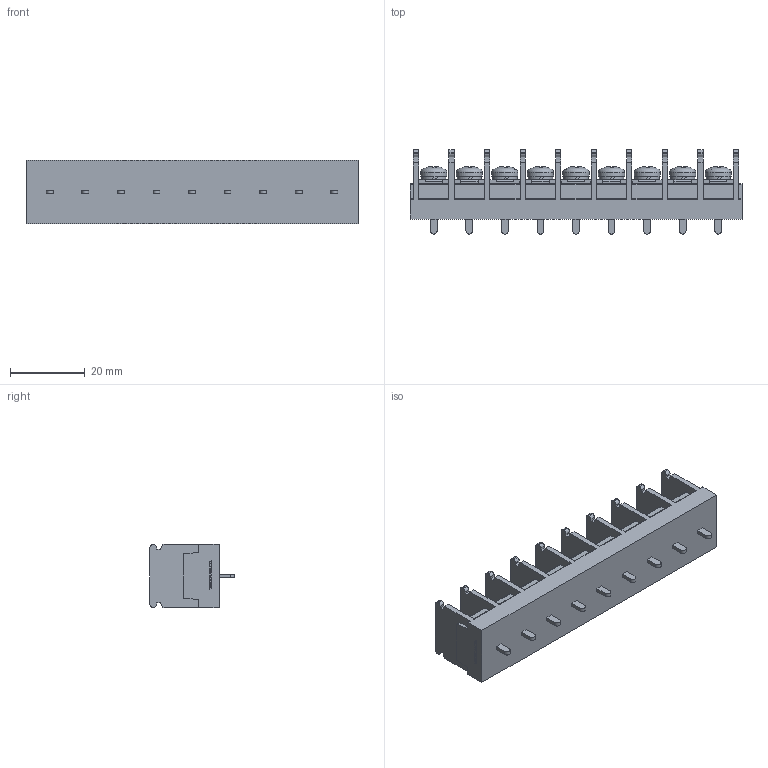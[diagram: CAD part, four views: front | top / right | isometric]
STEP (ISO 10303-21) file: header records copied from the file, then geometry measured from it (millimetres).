
FILE_DESCRIPTION(/* description */ ('Alibre Inc.'),/* implementation_level */ '2;1');
FILE_NAME(/* name */ 'export-6143857B-4F37-4DF2-8812-27868432778D',/* time_stamp */ '2020-11-04T18:16:15+09:00',/* author */ (''),/* organization */ (''),/* preprocessor_version */ 'ST-DEVELOPER v17',/* originating_system */ 'Alibre',/* authorisation */ '');
FILE_SCHEMA (('CONFIG_CONTROL_DESIGN'));
Length unit declared in the file: millimetre
Bounding box: 88.7 x 22.5 x 17 mm (x, y, z)
Volume: 16327.5 mm3; surface area: 10718 mm2
Topology: 1 solids, 26 shells, 1145 faces, 3111 edges, 2065 vertices
Faces by surface type: plane 822, cylinder 147, bspline 104, cone 45, torus 18, sphere 9
Full cylindrical faces by diameter (mm): 4 x18, 6.5 x9, 7 x9
Entity records: 34587 total; most frequent: CARTESIAN_POINT 7345, ORIENTED_EDGE 6042, DIRECTION 4518, EDGE_CURVE 3021, VECTOR 2114, LINE 2114, VERTEX_POINT 2029, AXIS2_PLACEMENT_3D 1594
